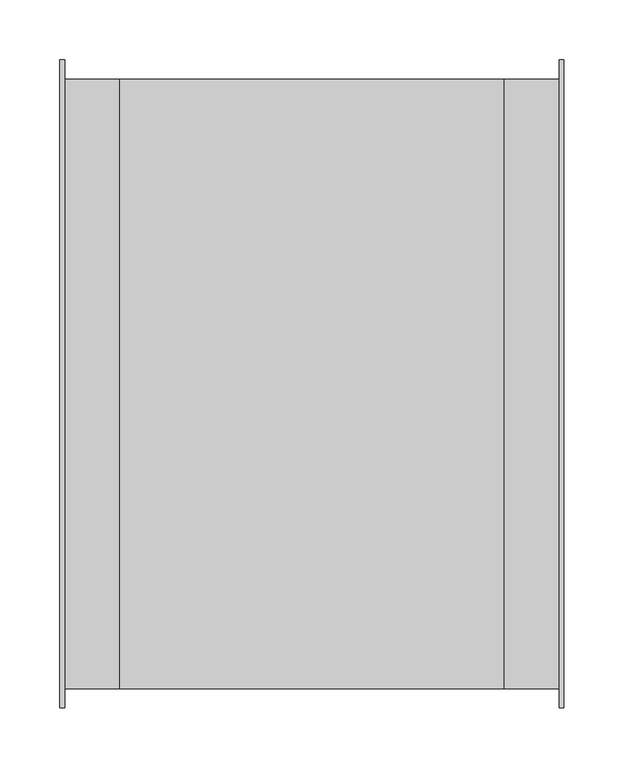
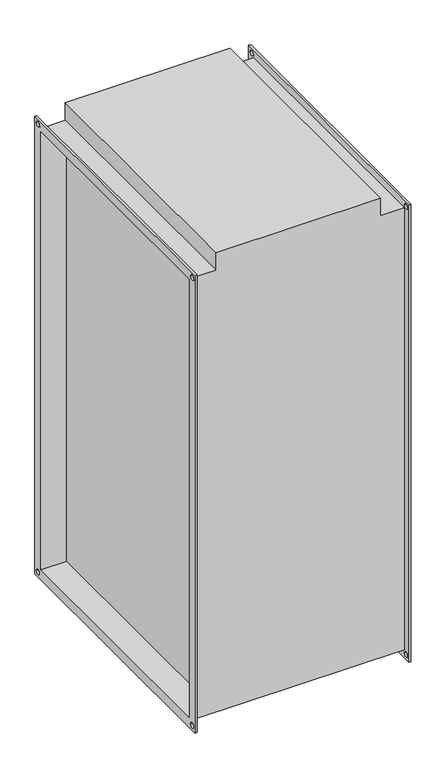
"""IFC4 building model written with IfcOpenShell, lengths in millimetres: proxy geometry, СВ_ВоздухонагревательЭлектрический_КанальныйПрямоугольный_200-1000_SPH-E : SPH-E-900x500/30."""

from ifc_helpers import new_model, si_unit, frame, origin, place, context, project, spatial, polyline, circle_curve, source, transform, mapped, element, save
from ifc_brep_helpers import plane_surface, revolved_surface, advanced_brep


def mechanical_equipment_fcb9aed7(model_context):
    return source(origin(), model_context, "Body", "AdvancedBrep", [
        advanced_brep(
        [(-160.0, -254.0, 454.0), (-206.0, -254.0, 454.0), (-206.0, -254.0, -454.0), (206.0, -254.0, -454.0), (206.0, -254.0, 454.0), (160.0, -254.0, 454.0), (160.0, -254.0, 490.0), (-160.0, -254.0, 490.0), (-206.0, 254.0, -454.0), (206.0, 254.0, -454.0), (-206.0, 254.0, 454.0), (-160.0, 254.0, 454.0), (-160.0, 254.0, 490.0), (160.0, 254.0, 490.0), (160.0, 254.0, 454.0), (206.0, 254.0, 454.0), (160.0, 250.0, -450.0), (160.0, 250.0, 450.0), (160.0, -250.0, 450.0), (160.0, -250.0, -450.0), (-160.0, -250.0, 450.0), (-160.0, 250.0, 450.0), (-160.0, 250.0, -450.0), (-160.0, -250.0, -450.0), (-210.0, -270.0, 470.0), (-210.0, 270.0, 470.0), (-210.0, 270.0, -470.0), (-210.0, -270.0, -470.0), (-210.0, -250.0, 450.0), (-210.0, -250.0, -450.0), (-210.0, 250.0, -450.0), (-210.0, 250.0, 450.0), (-210.0, 255.0, 460.0), (-210.0, 265.0, 460.0), (-210.0, -265.0, 460.0), (-210.0, -255.0, 460.0), (-210.0, -265.0, -460.0), (-210.0, -255.0, -460.0), (-210.0, 255.0, -460.0), (-210.0, 265.0, -460.0), (-206.0, -270.0, 470.0), (-206.0, -270.0, -470.0), (-206.0, 270.0, -470.0), (-206.0, 270.0, 470.0), (-206.0, 265.0, 460.0), (-206.0, 255.0, 460.0), (-206.0, -255.0, 460.0), (-206.0, -265.0, 460.0), (-206.0, -255.0, -460.0), (-206.0, -265.0, -460.0), (-206.0, 265.0, -460.0), (-206.0, 255.0, -460.0), (206.0, 270.0, 470.0), (206.0, 270.0, -470.0), (206.0, -270.0, -470.0), (206.0, -270.0, 470.0), (206.0, 255.0, 460.0), (206.0, 265.0, 460.0), (206.0, -265.0, 460.0), (206.0, -255.0, 460.0), (206.0, -265.0, -460.0), (206.0, -255.0, -460.0), (206.0, 255.0, -460.0), (206.0, 265.0, -460.0), (210.0, 270.0, 470.0), (210.0, -270.0, 470.0), (210.0, -270.0, -470.0), (210.0, 270.0, -470.0), (210.0, 250.0, 450.0), (210.0, 250.0, -450.0), (210.0, -250.0, -450.0), (210.0, -250.0, 450.0), (210.0, 265.0, 460.0), (210.0, 255.0, 460.0), (210.0, -255.0, 460.0), (210.0, -265.0, 460.0), (210.0, -255.0, -460.0), (210.0, -265.0, -460.0), (210.0, 265.0, -460.0), (210.0, 255.0, -460.0)],
        [
            (0, 1),
            (1, 2),
            (2, 3),
            (3, 4),
            (4, 5),
            (5, 6),
            (6, 7),
            (7, 0),
            (2, 8),
            (8, 9),
            (9, 3),
            (10, 11),
            (11, 12),
            (12, 13),
            (13, 14),
            (14, 15),
            (15, 9),
            (8, 10),
            (0, 11),
            (10, 1),
            (13, 6),
            (5, 14),
            (16, 17),
            (17, 18),
            (18, 19),
            (19, 16),
            (7, 12),
            (20, 21),
            (21, 22),
            (22, 23),
            (23, 20),
            (4, 15),
            (24, 25),
            (25, 26),
            (26, 27),
            (27, 24),
            (28, 29),
            (29, 30),
            (30, 31),
            (31, 28),
            (32, 33, circle_curve(frame((-210.0, 260.0, 460.0), z_axis=(1.0, 0.0, 0.0), x_axis=(0.0, 1.0, 0.0)), 5.0)),
            (33, 32, circle_curve(frame((-210.0, 260.0, 460.0), z_axis=(1.0, 0.0, 0.0), x_axis=(0.0, 1.0, 0.0)), 5.0)),
            (34, 35, circle_curve(frame((-210.0, -260.0, 460.0), z_axis=(1.0, 0.0, 0.0), x_axis=(0.0, 1.0, 0.0)), 5.0)),
            (35, 34, circle_curve(frame((-210.0, -260.0, 460.0), z_axis=(1.0, 0.0, 0.0), x_axis=(0.0, 1.0, 0.0)), 5.0)),
            (36, 37, circle_curve(frame((-210.0, -260.0, -460.0), z_axis=(1.0, 0.0, 0.0), x_axis=(0.0, 1.0, 0.0)), 5.0)),
            (37, 36, circle_curve(frame((-210.0, -260.0, -460.0), z_axis=(1.0, 0.0, 0.0), x_axis=(0.0, 1.0, 0.0)), 5.0)),
            (38, 39, circle_curve(frame((-210.0, 260.0, -460.0), z_axis=(1.0, 0.0, 0.0), x_axis=(0.0, 1.0, 0.0)), 5.0)),
            (39, 38, circle_curve(frame((-210.0, 260.0, -460.0), z_axis=(1.0, 0.0, 0.0), x_axis=(0.0, 1.0, 0.0)), 5.0)),
            (40, 41),
            (41, 42),
            (42, 43),
            (43, 40),
            (44, 45, circle_curve(frame((-206.0, 260.0, 460.0), z_axis=(-1.0, 0.0, 0.0), x_axis=(0.0, 1.0, 0.0)), 5.0)),
            (45, 44, circle_curve(frame((-206.0, 260.0, 460.0), z_axis=(-1.0, 0.0, 0.0), x_axis=(0.0, 1.0, 0.0)), 5.0)),
            (46, 47, circle_curve(frame((-206.0, -260.0, 460.0), z_axis=(-1.0, 0.0, 0.0), x_axis=(0.0, 1.0, 0.0)), 5.0)),
            (47, 46, circle_curve(frame((-206.0, -260.0, 460.0), z_axis=(-1.0, 0.0, 0.0), x_axis=(0.0, 1.0, 0.0)), 5.0)),
            (48, 49, circle_curve(frame((-206.0, -260.0, -460.0), z_axis=(-1.0, 0.0, 0.0), x_axis=(0.0, 1.0, 0.0)), 5.0)),
            (49, 48, circle_curve(frame((-206.0, -260.0, -460.0), z_axis=(-1.0, 0.0, 0.0), x_axis=(0.0, 1.0, 0.0)), 5.0)),
            (50, 51, circle_curve(frame((-206.0, 260.0, -460.0), z_axis=(-1.0, 0.0, 0.0), x_axis=(0.0, 1.0, 0.0)), 5.0)),
            (51, 50, circle_curve(frame((-206.0, 260.0, -460.0), z_axis=(-1.0, 0.0, 0.0), x_axis=(0.0, 1.0, 0.0)), 5.0)),
            (27, 41),
            (40, 24),
            (26, 42),
            (25, 43),
            (52, 53),
            (53, 54),
            (54, 55),
            (55, 52),
            (56, 57, circle_curve(frame((206.0, 260.0, 460.0), z_axis=(1.0, 0.0, 0.0), x_axis=(0.0, 1.0, 0.0)), 5.0)),
            (57, 56, circle_curve(frame((206.0, 260.0, 460.0), z_axis=(1.0, 0.0, 0.0), x_axis=(0.0, 1.0, 0.0)), 5.0)),
            (58, 59, circle_curve(frame((206.0, -260.0, 460.0), z_axis=(1.0, 0.0, 0.0), x_axis=(0.0, 1.0, 0.0)), 5.0)),
            (59, 58, circle_curve(frame((206.0, -260.0, 460.0), z_axis=(1.0, 0.0, 0.0), x_axis=(0.0, 1.0, 0.0)), 5.0)),
            (60, 61, circle_curve(frame((206.0, -260.0, -460.0), z_axis=(1.0, 0.0, 0.0), x_axis=(0.0, 1.0, 0.0)), 5.0)),
            (61, 60, circle_curve(frame((206.0, -260.0, -460.0), z_axis=(1.0, 0.0, 0.0), x_axis=(0.0, 1.0, 0.0)), 5.0)),
            (62, 63, circle_curve(frame((206.0, 260.0, -460.0), z_axis=(1.0, 0.0, 0.0), x_axis=(0.0, 1.0, 0.0)), 5.0)),
            (63, 62, circle_curve(frame((206.0, 260.0, -460.0), z_axis=(1.0, 0.0, 0.0), x_axis=(0.0, 1.0, 0.0)), 5.0)),
            (64, 65),
            (65, 66),
            (66, 67),
            (67, 64),
            (68, 69),
            (69, 70),
            (70, 71),
            (71, 68),
            (72, 73, circle_curve(frame((210.0, 260.0, 460.0), z_axis=(-1.0, 0.0, 0.0), x_axis=(0.0, 1.0, 0.0)), 5.0)),
            (73, 72, circle_curve(frame((210.0, 260.0, 460.0), z_axis=(-1.0, 0.0, 0.0), x_axis=(0.0, 1.0, 0.0)), 5.0)),
            (74, 75, circle_curve(frame((210.0, -260.0, 460.0), z_axis=(-1.0, 0.0, 0.0), x_axis=(0.0, 1.0, 0.0)), 5.0)),
            (75, 74, circle_curve(frame((210.0, -260.0, 460.0), z_axis=(-1.0, 0.0, 0.0), x_axis=(0.0, 1.0, 0.0)), 5.0)),
            (76, 77, circle_curve(frame((210.0, -260.0, -460.0), z_axis=(-1.0, 0.0, 0.0), x_axis=(0.0, 1.0, 0.0)), 5.0)),
            (77, 76, circle_curve(frame((210.0, -260.0, -460.0), z_axis=(-1.0, 0.0, 0.0), x_axis=(0.0, 1.0, 0.0)), 5.0)),
            (78, 79, circle_curve(frame((210.0, 260.0, -460.0), z_axis=(-1.0, 0.0, 0.0), x_axis=(0.0, 1.0, 0.0)), 5.0)),
            (79, 78, circle_curve(frame((210.0, 260.0, -460.0), z_axis=(-1.0, 0.0, 0.0), x_axis=(0.0, 1.0, 0.0)), 5.0)),
            (55, 65),
            (64, 52),
            (54, 66),
            (53, 67),
            (31, 21),
            (20, 28),
            (30, 22),
            (29, 23),
            (68, 17),
            (16, 69),
            (19, 70),
            (18, 71),
            (32, 45),
            (44, 33),
            (56, 73),
            (72, 57),
            (34, 47),
            (46, 35),
            (58, 75),
            (74, 59),
            (36, 49),
            (48, 37),
            (60, 77),
            (76, 61),
            (38, 51),
            (50, 39),
            (62, 79),
            (78, 63),
        ],
        [
            plane_surface(frame((-160.0, -254.0, 454.0), z_axis=(0.0, -1.0, 0.0), x_axis=(-1.0, 0.0, 0.0))),
            plane_surface(frame((-160.0, -254.0, -454.0), z_axis=(0.0, 0.0, -1.0), x_axis=(-1.0, 0.0, 0.0))),
            plane_surface(frame((-160.0, 254.0, -454.0), z_axis=(0.0, 1.0, 0.0), x_axis=(-1.0, 0.0, 0.0))),
            plane_surface(frame((-160.0, 254.0, 454.0), z_axis=(0.0, 0.0, 1.0), x_axis=(-1.0, 0.0, 0.0))),
            plane_surface(frame((160.0, -254.0, 490.0), z_axis=(1.0, 0.0, 0.0), x_axis=(0.0, 0.0, -1.0))),
            plane_surface(frame((-160.0, -254.0, 490.0), z_axis=(-1.0, 0.0, 0.0), x_axis=(0.0, 0.0, 1.0))),
            plane_surface(frame((160.0, 254.0, 490.0), z_axis=(0.0, 0.0, 1.0), x_axis=(-1.0, 0.0, 0.0))),
            plane_surface(frame((206.0, 254.0, 454.0), z_axis=(0.0, 0.0, 1.0), x_axis=(-1.0, 0.0, 0.0))),
            plane_surface(frame((-210.0, -270.0, 470.0), z_axis=(-1.0, 0.0, 0.0), x_axis=(0.0, 0.0, 1.0))),
            plane_surface(frame((-206.0, -270.0, 470.0), z_axis=(1.0, 0.0, 0.0), x_axis=(0.0, 0.0, -1.0))),
            plane_surface(frame((-206.0, -270.0, 470.0), z_axis=(0.0, -1.0, 0.0), x_axis=(-1.0, 0.0, 0.0))),
            plane_surface(frame((-206.0, -270.0, -470.0), z_axis=(0.0, 0.0, -1.0), x_axis=(-1.0, 0.0, 0.0))),
            plane_surface(frame((-206.0, 270.0, -470.0), z_axis=(0.0, 1.0, 0.0), x_axis=(-1.0, 0.0, 0.0))),
            plane_surface(frame((-206.0, 270.0, 470.0), z_axis=(0.0, 0.0, 1.0), x_axis=(-1.0, 0.0, 0.0))),
            plane_surface(frame((206.0, 250.0, -450.0), z_axis=(-1.0, 0.0, 0.0), x_axis=(0.0, 0.0, 1.0))),
            plane_surface(frame((210.0, 250.0, -450.0), z_axis=(1.0, 0.0, 0.0), x_axis=(0.0, 0.0, -1.0))),
            plane_surface(frame((210.0, 270.0, 470.0), z_axis=(0.0, 0.0, 1.0), x_axis=(-1.0, 0.0, 0.0))),
            plane_surface(frame((210.0, -270.0, 470.0), z_axis=(0.0, -1.0, 0.0), x_axis=(-1.0, 0.0, 0.0))),
            plane_surface(frame((210.0, -270.0, -470.0), z_axis=(0.0, 0.0, -1.0), x_axis=(-1.0, 0.0, 0.0))),
            plane_surface(frame((210.0, 270.0, -470.0), z_axis=(0.0, 1.0, 0.0), x_axis=(-1.0, 0.0, 0.0))),
            plane_surface(frame((-206.0, -250.0, 450.0), z_axis=(0.0, 0.0, -1.0), x_axis=(-1.0, 0.0, 0.0))),
            plane_surface(frame((-206.0, 250.0, 450.0), z_axis=(0.0, -1.0, 0.0), x_axis=(-1.0, 0.0, 0.0))),
            plane_surface(frame((-206.0, 250.0, -450.0), z_axis=(0.0, 0.0, 1.0), x_axis=(-1.0, 0.0, 0.0))),
            plane_surface(frame((-206.0, -250.0, -450.0), z_axis=(0.0, 1.0, 0.0), x_axis=(-1.0, 0.0, 0.0))),
            plane_surface(frame((210.0, 250.0, 450.0), z_axis=(0.0, -1.0, 0.0), x_axis=(-1.0, 0.0, 0.0))),
            plane_surface(frame((210.0, 250.0, -450.0), z_axis=(0.0, 0.0, 1.0), x_axis=(-1.0, 0.0, 0.0))),
            plane_surface(frame((210.0, -250.0, -450.0), z_axis=(0.0, 1.0, 0.0), x_axis=(-1.0, 0.0, 0.0))),
            plane_surface(frame((210.0, -250.0, 450.0), z_axis=(0.0, 0.0, -1.0), x_axis=(-1.0, 0.0, 0.0))),
            revolved_surface(polyline([(-206.0, 265.0, 460.0), (-210.0, 265.0, 460.0)]), (-210.0, 260.0, 460.0), (1.0, 0.0, 0.0)),
            revolved_surface(polyline([(210.0, 265.0, 460.0), (206.0, 265.0, 460.0)]), (-210.0, 260.0, 460.0), (1.0, 0.0, 0.0)),
            revolved_surface(polyline([(-206.0, -255.0, 460.0), (-210.0, -255.0, 460.0)]), (0.0, -260.0, 460.0), (1.0, 0.0, 0.0)),
            revolved_surface(polyline([(210.0, -255.0, 460.0), (206.0, -255.0, 460.0)]), (0.0, -260.0, 460.0), (1.0, 0.0, 0.0)),
            revolved_surface(polyline([(-206.0, -255.0, -460.0), (-210.0, -255.0, -460.0)]), (0.0, -260.0, -460.0), (1.0, 0.0, 0.0)),
            revolved_surface(polyline([(210.0, -255.0, -460.0), (206.0, -255.0, -460.0)]), (0.0, -260.0, -460.0), (1.0, 0.0, 0.0)),
            revolved_surface(polyline([(-206.0, 265.0, -460.0), (-210.0, 265.0, -460.0)]), (0.0, 260.0, -460.0), (1.0, 0.0, 0.0)),
            revolved_surface(polyline([(210.0, 265.0, -460.0), (206.0, 265.0, -460.0)]), (0.0, 260.0, -460.0), (1.0, 0.0, 0.0)),
        ],
        [
            (0, [[1, 2, 3, 4, 5, 6, 7, 8]]),
            (1, [[-3, 9, 10, 11]]),
            (2, [[12, 13, 14, 15, 16, 17, -10, 18]]),
            (3, [[-1, 19, -12, 20]]),
            (4, [[21, -6, 22, -15]]),
            (4, [[23, 24, 25, 26]]),
            (5, [[27, -13, -19, -8]]),
            (5, [[28, 29, 30, 31]]),
            (6, [[-21, -14, -27, -7]]),
            (7, [[-5, 32, -16, -22]]),
            (8, [[33, 34, 35, 36], [37, 38, 39, 40], [41, 42], [43, 44], [45, 46], [47, 48]]),
            (9, [[49, 50, 51, 52], [-2, -20, -18, -9], [53, 54], [55, 56], [57, 58], [59, 60]]),
            (10, [[-36, 61, -49, 62]]),
            (11, [[-35, 63, -50, -61]]),
            (12, [[-34, 64, -51, -63]]),
            (13, [[-33, -62, -52, -64]]),
            (14, [[65, 66, 67, 68], [-4, -11, -17, -32], [69, 70], [71, 72], [73, 74], [75, 76]]),
            (15, [[77, 78, 79, 80], [81, 82, 83, 84], [85, 86], [87, 88], [89, 90], [91, 92]]),
            (16, [[-68, 93, -77, 94]]),
            (17, [[-67, 95, -78, -93]]),
            (18, [[-66, 96, -79, -95]]),
            (19, [[-65, -94, -80, -96]]),
            (20, [[-40, 97, -28, 98]]),
            (21, [[-39, 99, -29, -97]]),
            (22, [[-38, 100, -30, -99]]),
            (23, [[-37, -98, -31, -100]]),
            (24, [[-81, 101, -23, 102]]),
            (25, [[-82, -102, -26, 103]]),
            (26, [[-83, -103, -25, 104]]),
            (27, [[-101, -84, -104, -24]]),
            (28, [[105, -53, 106, -41]]),
            (29, [[107, -85, 108, -69]]),
            (28, [[-105, -42, -106, -54]]),
            (29, [[-107, -70, -108, -86]]),
            (30, [[109, -55, 110, -43]]),
            (31, [[111, -87, 112, -71]]),
            (30, [[-109, -44, -110, -56]]),
            (31, [[-111, -72, -112, -88]]),
            (32, [[113, -57, 114, -45]]),
            (33, [[115, -89, 116, -73]]),
            (32, [[-113, -46, -114, -58]]),
            (33, [[-115, -74, -116, -90]]),
            (34, [[117, -59, 118, -47]]),
            (35, [[119, -91, 120, -75]]),
            (34, [[-117, -48, -118, -60]]),
            (35, [[-119, -76, -120, -92]]),
        ],
    ),
    ])


if __name__ == "__main__":
    model = new_model("IFC4")
    model_context = context("Model", 3, world=origin())
    ifc_project = project(units=[si_unit("LENGTHUNIT", "METRE", prefix="MILLI")], contexts=[model_context])
    site = spatial("IfcSite", under=ifc_project)
    building = spatial("IfcBuilding", under=site)
    placement = place(None, origin())
    mechanical_equipment_shape = mechanical_equipment_fcb9aed7(model_context)
    element("IfcBuildingElementProxy", 1, Name="СВ_ВоздухонагревательЭлектрический_КанальныйПрямоугольный_200-1000_SPH-E : SPH-E-900x500/30", ObjectType="СВ_ВоздухонагревательЭлектрический_КанальныйПрямоугольный_200-1000_SPH-E : SPH-E-900x500/30", at=placement, inside=building, context=model_context, shape_type="MappedRepresentation", body=[
        mapped(mechanical_equipment_shape, transform((0.0, 0.0, 0.0), x_axis=(1.0, 0.0, 0.0), y_axis=(0.0, 1.0, 0.0), z_axis=(0.0, 0.0, 1.0))),
    ])
    save(model, "model.ifc")
